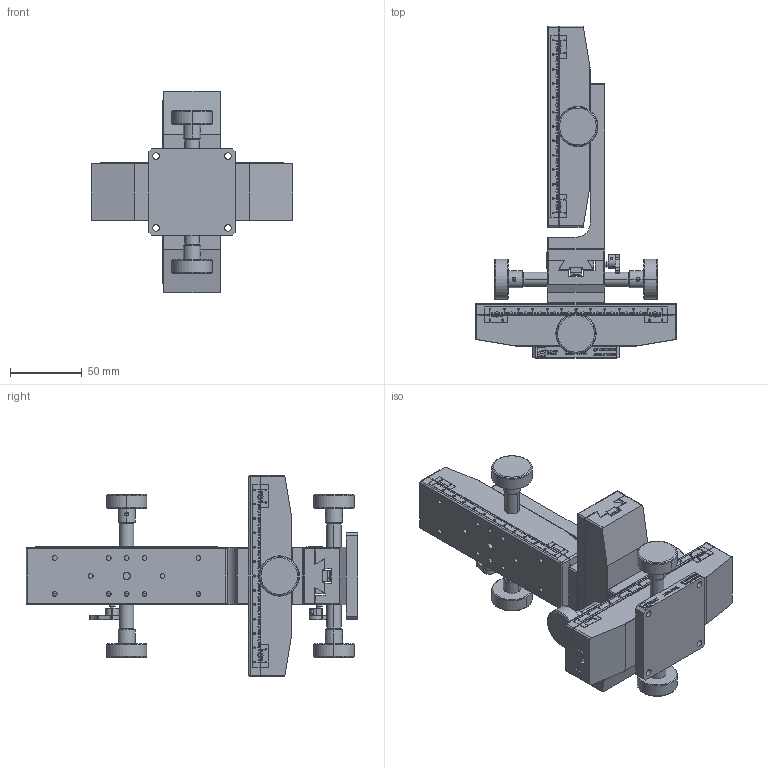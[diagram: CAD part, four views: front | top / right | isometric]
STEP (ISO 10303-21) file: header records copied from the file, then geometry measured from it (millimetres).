
FILE_DESCRIPTION (( 'STEP AP203' ), '1' );
FILE_NAME ('MCT-41WL-(«¬¿ý).STEP', '2013-10-05T06:04:16', ( '' ), ( '' ), 'SwSTEP 2.0', 'SolidWorks 2013', '' );
FILE_SCHEMA (( 'CONFIG_CONTROL_DESIGN' ));
Products named in the file (7): Group4^MCT-41WL-(型錄); Group5^MCT-41WL-(型錄); Group6^MCT-41WL-(型錄); Group2^MCT-41WL-(型錄); MCT-41WL-(型錄); Group1^MCT-41WL-(型錄); Group3^MCT-41WL-(型錄)
Assembly tree (6 placements, depth 2):
  MCT-41WL-(型錄)
    Group1^MCT-41WL-(型錄)
    Group3^MCT-41WL-(型錄)
    Group4^MCT-41WL-(型錄)
    Group5^MCT-41WL-(型錄)
    Group6^MCT-41WL-(型錄)
    Group2^MCT-41WL-(型錄)
Bounding box: 140 x 231 x 140 mm (x, y, z)
Volume: 619910.2 mm3; surface area: 166994.5 mm2
Topology: 6 solids, 6 shells, 4300 faces, 11742 edges, 7676 vertices
Faces by surface type: plane 3008, bspline 747, cylinder 302, cone 186, torus 33, sphere 24
Entity records: 186706 total; most frequent: CARTESIAN_POINT 82054, ORIENTED_EDGE 23418, DIRECTION 18133, EDGE_CURVE 11709, VECTOR 9013, LINE 9013, VERTEX_POINT 7675, EDGE_LOOP 4588
